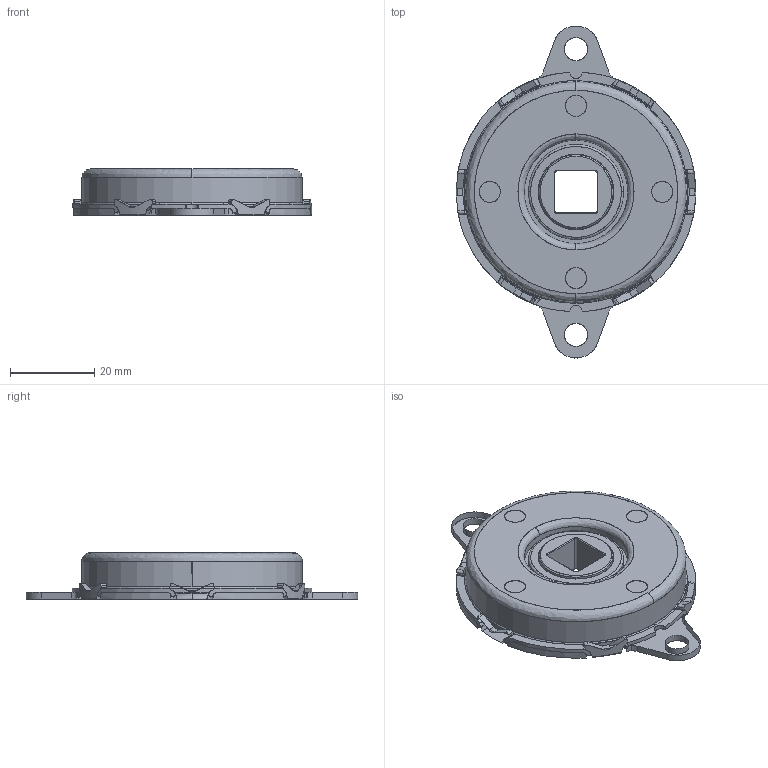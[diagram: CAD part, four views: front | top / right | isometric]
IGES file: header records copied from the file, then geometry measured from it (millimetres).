
Start section: SolidWorks IGES file using analytic representation for surfaces
Bounding box: 57 x 78.99 x 11 mm (x, y, z)
Surface area: 10644.7 mm2 (no closed solid volume)
Topology: 0 solids, 0 shells, 341 faces, 3965 edges, 3928 vertices
Faces by surface type: bspline 242, revolution 99
